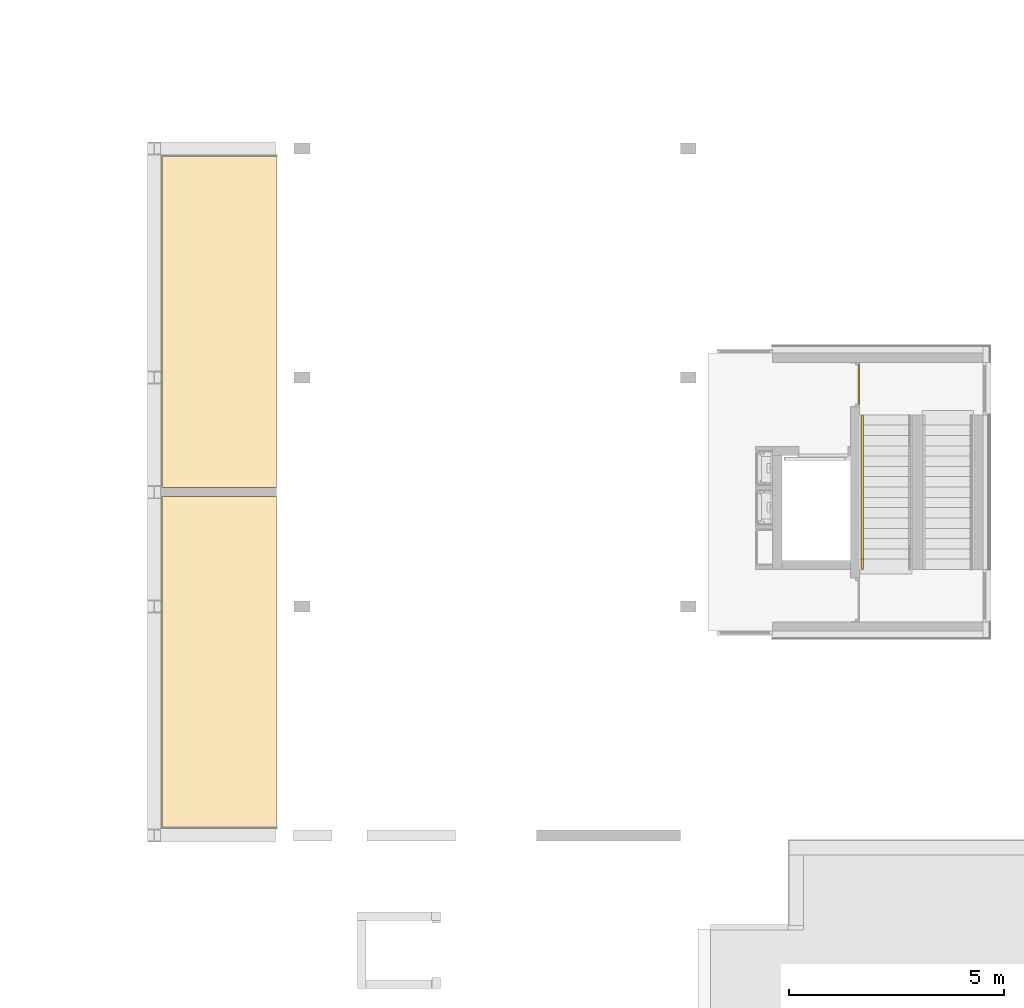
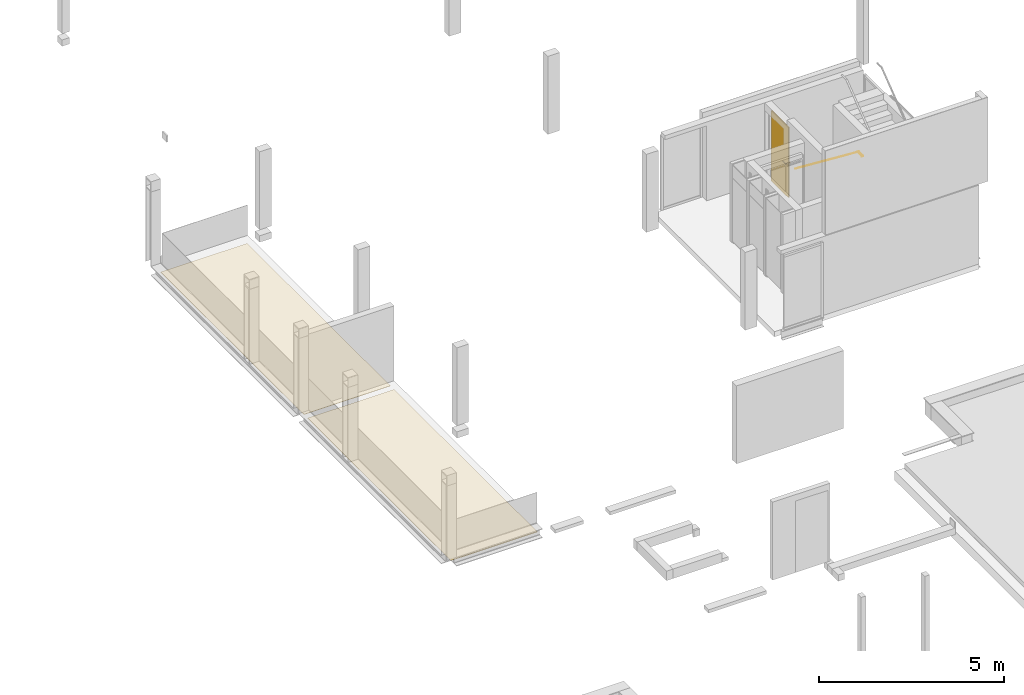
# One storey, part 12 of 22: 2 coverings, 1 door, 1 railing, 1 element without a shape of its own.
"""IFC2X3 building model written with IfcOpenShell, lengths in millimetres."""

from ifc_helpers import new_model, entity, si_unit, converted_unit, derived_unit, money_unit, direction, frame, origin_with_axes, place, context, subcontext, project, spatial, faceted_brep, source, transform, mapped, material, type_object, type_shapes, element, aggregate, save


model = new_model("IFC2X3")

# Units and contexts
model_context = context("Model", 3, precision=0.01, world=origin_with_axes(), true_north=direction((0.0, 1.0)))
body_context = subcontext(model_context, "Body", "Model", "MODEL_VIEW")
ifc_project = project(units=[si_unit("LENGTHUNIT", "METRE", prefix="MILLI"), si_unit("AREAUNIT", "SQUARE_METRE"), si_unit("VOLUMEUNIT", "CUBIC_METRE"), converted_unit("PLANEANGLEUNIT", "DEGREE", entity("IfcPlaneAngleMeasure", 0.0174532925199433), si_unit("PLANEANGLEUNIT", "RADIAN"), dimensions=[0, 0, 0, 0, 0, 0, 0]), money_unit("EUR"), converted_unit("TIMEUNIT", "Year", entity("IfcTimeMeasure", 31557600.0), si_unit("TIMEUNIT", "SECOND"), dimensions=[0, 0, 1, 0, 0, 0, 0]), si_unit("MASSUNIT", "GRAM", prefix="KILO"), si_unit("THERMODYNAMICTEMPERATUREUNIT", "DEGREE_CELSIUS"), si_unit("LUMINOUSINTENSITYUNIT", "LUMEN"), si_unit("ENERGYUNIT", "JOULE", prefix="MEGA"), derived_unit("THERMALCONDUCTANCEUNIT", [(si_unit("POWERUNIT", "WATT"), 1), (si_unit("LENGTHUNIT", "METRE"), -1), (si_unit("THERMODYNAMICTEMPERATUREUNIT", "KELVIN"), -1)]), derived_unit("SPECIFICHEATCAPACITYUNIT", [(si_unit("ENERGYUNIT", "JOULE"), 1), (si_unit("MASSUNIT", "GRAM", prefix="KILO"), -1), (si_unit("THERMODYNAMICTEMPERATUREUNIT", "KELVIN"), -1)]), derived_unit("MASSDENSITYUNIT", [(si_unit("MASSUNIT", "GRAM", prefix="KILO"), 1), (si_unit("VOLUMEUNIT", "CUBIC_METRE"), -1)])], contexts=[model_context])

# Site, building, storey
site_placement = place(None, origin_with_axes())
site = spatial("IfcSite", under=ifc_project, at=site_placement, Name="Site", CompositionType="ELEMENT")
building_placement = place(site_placement, origin_with_axes())
building = spatial("IfcBuilding", under=site, at=building_placement, Name="Naam gebouw", CompositionType="ELEMENT")
storey_placement = place(building_placement, frame((0.0, 0.0, 11150.0), z_axis=(0.0, 0.0, 1.0), x_axis=(1.0, 0.0, 0.0)))
storey = spatial("IfcBuildingStorey", under=building, at=storey_placement, Name="3e verdieping/dak N", CompositionType="ELEMENT", Elevation=11150.0)

# Door
ifc_material_1 = material(Name="<Unnamed>")
door_style = type_object("IfcDoorStyle", Name="NLRS_32_deur stomp dicht_WID:Deur", ConstructionType="NOTDEFINED", OperationType="NOTDEFINED", ParameterTakesPrecedence=False, Sizeable=False)
shared_shape_1 = source(origin_with_axes(), body_context, "Body", "Brep", [
    faceted_brep([(410.0000000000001, 65.96445239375, 1091.33974596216), (407.58819045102, 65.96445239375, 1090.34074173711), (417.5000000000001, 65.96445239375, 1078.34936490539), (410.0000000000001, 74.00000000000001, 1091.33974596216), (407.58819045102, 74.00000000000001, 1090.34074173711), (411.4704761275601, 65.96445239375, 1075.85185434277), (422.6776695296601, 65.96445239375, 1082.32233047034), (412.0710678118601, 65.96445239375, 1092.92893218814), (412.0710678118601, 74.00000000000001, 1092.92893218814), (417.5000000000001, 74.00000000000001, 1078.34936490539), (405.0, 74.00000000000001, 1090.0), (405.0, 65.96445239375, 1090.0), (411.4704761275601, 74.00000000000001, 1075.85185434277), (422.6776695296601, 74.00000000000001, 1082.32233047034), (413.66025403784, 74.00000000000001, 1095.0), (413.66025403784, 65.96445239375, 1095.0), (402.41180954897, 65.96445239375, 1090.34074173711), (402.41180954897, 74.00000000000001, 1090.34074173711), (405.0, 65.96445239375, 1075.0), (405.0, 74.00000000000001, 1075.0), (426.6506350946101, 65.96445239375, 1087.5), (426.6506350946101, 74.00000000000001, 1087.5), (414.65925826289, 65.96445239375, 1097.41180954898), (414.65925826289, 74.00000000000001, 1097.41180954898), (400.0, 74.00000000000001, 1091.33974596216), (400.0, 65.96445239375, 1091.33974596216), (398.52952387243, 65.96445239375, 1075.85185434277), (398.52952387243, 74.00000000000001, 1075.85185434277), (429.14814565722, 65.96445239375, 1093.52952387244), (429.14814565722, 74.00000000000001, 1093.52952387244), (415.0000000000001, 65.96445239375, 1100.0), (415.0000000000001, 74.00000000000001, 1100.0), (397.92893218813, 74.00000000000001, 1092.92893218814), (397.92893218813, 65.96445239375, 1092.92893218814), (392.5, 65.96445239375, 1078.34936490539), (392.5, 74.00000000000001, 1078.34936490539), (430.0000000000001, 65.96445239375, 1100.0), (430.0000000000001, 74.00000000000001, 1100.0), (414.65925826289, 65.96445239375, 1102.58819045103), (414.65925826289, 74.00000000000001, 1102.58819045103), (396.3397459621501, 74.00000000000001, 1095.0), (396.3397459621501, 65.96445239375, 1095.0), (387.32233047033, 65.96445239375, 1082.32233047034), (387.32233047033, 74.00000000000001, 1082.32233047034), (429.14814565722, 74.00000000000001, 1106.47047612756), (429.14814565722, 65.96445239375, 1106.47047612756), (413.66025403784, 65.96445239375, 1105.0), (413.66025403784, 74.00000000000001, 1105.0), (395.34074173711, 65.96445239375, 1097.41180954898), (395.34074173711, 74.00000000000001, 1097.41180954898), (383.3493649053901, 74.00000000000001, 1087.5), (383.3493649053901, 65.96445239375, 1087.5), (426.6506350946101, 74.00000000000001, 1112.5), (426.6506350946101, 65.96445239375, 1112.5), (412.0710678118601, 74.00000000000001, 1107.07106781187), (412.0710678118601, 65.96445239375, 1107.07106781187), (380.8518543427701, 74.00000000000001, 1093.52952387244), (395.0, 65.96445239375, 1100.0), (395.0, 74.00000000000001, 1100.0), (380.8518543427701, 65.96445239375, 1093.52952387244), (422.6776695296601, 74.00000000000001, 1117.67766952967), (422.6776695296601, 65.96445239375, 1117.67766952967), (410.0000000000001, 65.96445239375, 1108.66025403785), (410.0000000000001, 74.00000000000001, 1108.66025403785), (380.0000000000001, 74.00000000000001, 1100.0), (395.34074173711, 74.00000000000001, 1102.58819045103), (395.34074173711, 65.96445239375, 1102.58819045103), (380.0000000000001, 65.96445239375, 1100.0), (417.5000000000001, 65.96445239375, 1121.65063509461), (417.5000000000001, 74.00000000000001, 1121.65063509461), (407.58819045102, 65.96445239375, 1109.65925826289), (407.58819045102, 74.00000000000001, 1109.65925826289), (380.8518543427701, 74.00000000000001, 1106.47047612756), (396.3397459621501, 74.00000000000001, 1105.0), (396.3397459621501, 65.96445239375, 1105.0), (380.8518543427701, 65.96445239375, 1106.47047612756), (411.4704761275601, 65.96445239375, 1124.14814565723), (411.4704761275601, 74.00000000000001, 1124.14814565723), (405.0, 65.96445239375, 1110.0), (405.0, 74.00000000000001, 1110.0), (383.3493649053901, 74.00000000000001, 1112.5), (397.92893218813, 74.00000000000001, 1107.07106781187), (397.92893218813, 65.96445239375, 1107.07106781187), (383.3493649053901, 65.96445239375, 1112.5), (405.0, 65.96445239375, 1125.0), (405.0, 74.00000000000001, 1125.0), (402.41180954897, 65.96445239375, 1109.65925826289), (402.41180954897, 74.00000000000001, 1109.65925826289), (387.32233047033, 74.00000000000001, 1117.67766952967), (400.0, 65.96445239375, 1108.66025403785), (400.0, 74.00000000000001, 1108.66025403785), (387.32233047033, 65.96445239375, 1117.67766952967), (398.52952387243, 74.00000000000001, 1124.14814565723), (398.52952387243, 65.96445239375, 1124.14814565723), (392.5, 74.00000000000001, 1121.65063509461), (392.5, 65.96445239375, 1121.65063509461)], [[[0, 1, 2]], [[1, 0, 3, 4]], [[1, 5, 2]], [[6, 0, 2]], [[0, 7, 8, 3]], [[3, 9, 4]], [[10, 11, 1, 4]], [[5, 1, 11]], [[9, 2, 5, 12]], [[0, 6, 7]], [[9, 13, 6, 2]], [[14, 8, 7, 15]], [[13, 3, 8]], [[13, 9, 3]], [[12, 4, 9]], [[16, 11, 10, 17]], [[4, 12, 10]], [[5, 11, 18]], [[12, 5, 18, 19]], [[6, 20, 7]], [[20, 6, 13, 21]], [[21, 8, 14]], [[7, 20, 15]], [[22, 23, 14, 15]], [[13, 8, 21]], [[16, 18, 11]], [[19, 17, 10]], [[16, 17, 24, 25]], [[10, 12, 19]], [[18, 26, 27, 19]], [[28, 20, 21, 29]], [[21, 14, 29]], [[22, 15, 20]], [[30, 31, 23, 22]], [[23, 29, 14]], [[18, 16, 26]], [[17, 19, 27]], [[17, 27, 24]], [[25, 24, 32, 33]], [[16, 25, 26]], [[26, 34, 35, 27]], [[28, 22, 20]], [[36, 28, 29, 37]], [[30, 38, 39, 31]], [[23, 31, 37]], [[28, 30, 22]], [[37, 29, 23]], [[27, 35, 24]], [[32, 24, 35]], [[32, 40, 41, 33]], [[33, 34, 25]], [[34, 26, 25]], [[34, 42, 43, 35]], [[30, 28, 36]], [[44, 45, 36, 37]], [[38, 30, 36]], [[38, 46, 47, 39]], [[44, 31, 39]], [[31, 44, 37]], [[32, 35, 43]], [[43, 40, 32]], [[48, 41, 40, 49]], [[41, 42, 33]], [[34, 33, 42]], [[50, 43, 42, 51]], [[52, 53, 45, 44]], [[36, 45, 38]], [[38, 45, 46]], [[54, 47, 46, 55]], [[39, 47, 52]], [[44, 39, 52]], [[43, 50, 40]], [[48, 51, 41]], [[56, 49, 40]], [[57, 48, 49, 58]], [[51, 42, 41]], [[50, 51, 59, 56]], [[52, 60, 61, 53]], [[53, 46, 45]], [[54, 52, 47]], [[53, 55, 46]], [[62, 63, 54, 55]], [[56, 40, 50]], [[59, 51, 48]], [[64, 49, 56]], [[59, 48, 57]], [[64, 58, 49]], [[57, 58, 65, 66]], [[56, 59, 67, 64]], [[60, 52, 54]], [[68, 61, 60, 69]], [[61, 55, 53]], [[70, 71, 63, 62]], [[63, 60, 54]], [[61, 62, 55]], [[59, 57, 67]], [[72, 58, 64]], [[72, 65, 58]], [[66, 65, 73, 74]], [[67, 57, 66]], [[67, 75, 72, 64]], [[61, 68, 62]], [[60, 63, 69]], [[76, 68, 69, 77]], [[70, 78, 79, 71]], [[63, 71, 69]], [[62, 68, 70]], [[72, 80, 65]], [[65, 80, 73]], [[73, 81, 82, 74]], [[75, 66, 74]], [[67, 66, 75]], [[75, 83, 80, 72]], [[76, 70, 68]], [[71, 77, 69]], [[84, 76, 77, 85]], [[70, 76, 78]], [[79, 78, 86, 87]], [[77, 71, 79]], [[80, 88, 73]], [[73, 88, 81]], [[89, 82, 81, 90]], [[91, 74, 82]], [[75, 74, 83]], [[83, 91, 88, 80]], [[78, 76, 84]], [[77, 79, 85]], [[92, 93, 84, 85]], [[84, 86, 78]], [[86, 89, 90, 87]], [[87, 85, 79]], [[94, 81, 88]], [[82, 89, 95]], [[81, 94, 90]], [[91, 83, 74]], [[82, 95, 91]], [[94, 88, 91, 95]], [[94, 95, 93, 92]], [[86, 84, 93]], [[85, 87, 92]], [[86, 93, 89]], [[87, 90, 92]], [[93, 95, 89]], [[94, 92, 90]]]),
    faceted_brep([(410.0000000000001, 74.00000000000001, 1091.33974596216), (407.58819045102, 74.00000000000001, 1090.34074173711), (405.0, 74.00000000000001, 1090.0), (402.41180954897, 74.00000000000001, 1090.34074173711), (400.0, 74.00000000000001, 1091.33974596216), (397.92893218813, 74.00000000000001, 1092.92893218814), (396.3397459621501, 74.00000000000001, 1095.0), (395.34074173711, 74.00000000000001, 1097.41180954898), (395.0, 74.00000000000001, 1100.0), (395.34074173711, 74.00000000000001, 1102.58819045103), (396.3397459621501, 74.00000000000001, 1105.0), (397.92893218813, 74.00000000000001, 1107.07106781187), (400.0, 74.00000000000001, 1108.66025403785), (402.41180954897, 74.00000000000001, 1109.65925826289), (405.0, 74.00000000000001, 1110.0), (407.58819045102, 74.00000000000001, 1109.65925826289), (410.0000000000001, 74.00000000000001, 1108.66025403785), (412.0710678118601, 74.00000000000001, 1107.07106781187), (413.66025403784, 74.00000000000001, 1105.0), (414.65925826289, 74.00000000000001, 1102.58819045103), (415.0000000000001, 74.00000000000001, 1100.0), (414.65925826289, 74.00000000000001, 1097.41180954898), (413.66025403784, 74.00000000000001, 1095.0), (412.0710678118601, 74.00000000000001, 1092.92893218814), (405.0, 24.0, 1090.0), (402.41180954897, 26.58819045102, 1090.34074173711), (400.0, 29.0, 1091.33974596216), (397.92893218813, 31.07106781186, 1092.92893218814), (396.3397459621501, 32.66025403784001, 1095.0), (395.34074173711, 33.65925826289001, 1097.41180954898), (395.0, 34.0, 1100.0), (395.34074173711, 33.65925826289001, 1102.58819045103), (396.3397459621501, 32.66025403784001, 1105.0), (397.92893218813, 31.07106781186, 1107.07106781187), (400.0, 29.0, 1108.66025403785), (402.41180954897, 26.58819045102, 1109.65925826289), (405.0, 24.0, 1110.0), (407.58819045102, 21.41180954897, 1109.65925826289), (412.0710678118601, 16.92893218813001, 1107.07106781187), (414.65925826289, 14.34074173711, 1102.58819045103), (415.0000000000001, 14.0, 1100.0), (414.65925826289, 14.34074173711, 1097.41180954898), (412.0710678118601, 16.92893218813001, 1092.92893218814), (407.58819045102, 21.41180954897, 1090.34074173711), (255.0, 32.66025403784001, 1095.0), (255.0, 33.65925826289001, 1097.41180954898), (255.0, 34.0, 1100.0), (255.0, 33.65925826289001, 1102.58819045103), (255.0, 32.66025403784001, 1105.0), (410.0000000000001, 19.0, 1108.66025403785), (413.66025403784, 15.33974596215, 1105.0), (255.0, 14.34074173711, 1102.58819045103), (255.0, 14.0, 1100.0), (255.0, 14.34074173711, 1097.41180954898), (413.66025403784, 15.33974596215, 1095.0), (410.0000000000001, 19.0, 1091.33974596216), (255.0, 26.58819045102, 1090.34074173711), (255.0, 24.0, 1090.0), (255.0, 29.0, 1091.33974596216), (255.0, 31.07106781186, 1092.92893218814), (255.0, 21.41180954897, 1090.34074173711), (255.0, 19.0, 1091.33974596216), (255.0, 16.92893218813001, 1092.92893218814), (255.0, 15.33974596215, 1095.0), (255.0, 15.33974596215, 1105.0), (255.0, 16.92893218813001, 1107.07106781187), (255.0, 19.0, 1108.66025403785), (255.0, 21.41180954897, 1109.65925826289), (255.0, 24.0, 1110.0), (255.0, 26.58819045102, 1109.65925826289), (255.0, 29.0, 1108.66025403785), (255.0, 31.07106781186, 1107.07106781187)], [[[0, 1, 2, 3, 4, 5, 6, 7, 8, 9, 10, 11, 12, 13, 14, 15, 16, 17, 18, 19, 20, 21, 22, 23]], [[24, 1, 0]], [[25, 2, 1]], [[3, 2, 26]], [[27, 4, 3]], [[5, 4, 28]], [[5, 28, 6]], [[28, 29, 7, 6]], [[29, 30, 8, 7]], [[30, 31, 9, 8]], [[31, 32, 10, 9]], [[10, 32, 11]], [[12, 11, 32]], [[33, 13, 12]], [[13, 34, 14]], [[14, 35, 15]], [[16, 15, 36]], [[16, 36, 17]], [[17, 37, 18]], [[19, 18, 38]], [[20, 19, 39, 40]], [[20, 40, 41, 21]], [[42, 22, 21]], [[23, 22, 43]], [[0, 23, 24]], [[1, 24, 25]], [[25, 26, 2]], [[26, 27, 3]], [[27, 28, 4]], [[44, 45, 29, 28]], [[45, 46, 30, 29]], [[46, 47, 31, 30]], [[47, 48, 32, 31]], [[32, 33, 12]], [[33, 34, 13]], [[14, 34, 35]], [[35, 36, 15]], [[37, 17, 36]], [[49, 18, 37]], [[38, 18, 49]], [[38, 50, 19]], [[19, 50, 39]], [[51, 52, 40, 39]], [[52, 53, 41, 40]], [[54, 21, 41]], [[22, 42, 55]], [[54, 42, 21]], [[22, 55, 43]], [[23, 43, 24]], [[56, 25, 24, 57]], [[56, 58, 26, 25]], [[58, 59, 27, 26]], [[59, 44, 28, 27]], [[57, 60, 61, 62, 63, 53, 52, 51, 64, 65, 66, 67, 68, 69, 70, 71, 48, 47, 46, 45, 44, 59, 58, 56]], [[48, 71, 33, 32]], [[71, 70, 34, 33]], [[70, 69, 35, 34]], [[68, 36, 35, 69]], [[37, 36, 68, 67]], [[67, 66, 49, 37]], [[66, 65, 38, 49]], [[65, 64, 50, 38]], [[64, 51, 39, 50]], [[53, 63, 54, 41]], [[62, 61, 55, 42]], [[63, 62, 42, 54]], [[61, 60, 43, 55]], [[60, 57, 24, 43]]]),
    faceted_brep([(417.4999999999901, 122.03554760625, 1078.34936490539), (407.58819045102, 122.03554760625, 1090.34074173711), (410.0000000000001, 122.03554760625, 1091.33974596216), (411.4704761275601, 122.03554760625, 1075.85185434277), (410.0000000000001, 114.0, 1091.33974596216), (407.58819045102, 114.0, 1090.34074173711), (422.6776695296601, 122.03554760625, 1082.32233047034), (411.4704761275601, 114.0, 1075.85185434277), (417.4999999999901, 114.0, 1078.34936490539), (405.0, 122.03554760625, 1090.0), (412.0710678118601, 114.0, 1092.92893218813), (412.0710678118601, 122.03554760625, 1092.92893218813), (405.0, 114.0, 1090.0), (422.6776695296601, 114.0, 1082.32233047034), (405.0, 114.0, 1075.0), (405.0, 122.03554760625, 1075.0), (413.66025403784, 122.03554760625, 1095.0), (413.66025403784, 114.0, 1095.0), (402.41180954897, 114.0, 1090.34074173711), (402.41180954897, 122.03554760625, 1090.34074173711), (426.6506350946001, 122.03554760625, 1087.5), (426.6506350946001, 114.0, 1087.5), (398.52952387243, 114.0, 1075.85185434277), (398.52952387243, 122.03554760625, 1075.85185434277), (414.65925826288, 114.0, 1097.41180954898), (414.65925826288, 122.03554760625, 1097.41180954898), (400.0, 122.03554760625, 1091.33974596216), (400.0, 114.0, 1091.33974596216), (429.14814565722, 114.0, 1093.52952387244), (429.14814565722, 122.03554760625, 1093.52952387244), (392.4999999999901, 114.0, 1078.34936490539), (392.4999999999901, 122.03554760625, 1078.34936490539), (415.0000000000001, 114.0, 1100.0), (415.0000000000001, 122.03554760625, 1100.0), (397.92893218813, 122.03554760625, 1092.92893218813), (397.92893218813, 114.0, 1092.92893218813), (430.0000000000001, 122.03554760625, 1100.0), (430.0000000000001, 114.0, 1100.0), (387.32233047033, 114.0, 1082.32233047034), (387.32233047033, 122.03554760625, 1082.32233047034), (414.65925826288, 114.0, 1102.58819045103), (414.65925826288, 122.03554760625, 1102.58819045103), (396.3397459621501, 122.03554760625, 1095.0), (396.3397459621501, 114.0, 1095.0), (429.14814565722, 122.03554760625, 1106.47047612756), (429.14814565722, 114.0, 1106.47047612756), (383.3493649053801, 114.0, 1087.5), (383.3493649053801, 122.03554760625, 1087.5), (413.66025403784, 114.0, 1105.0), (413.66025403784, 122.03554760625, 1105.0), (395.3407417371, 122.03554760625, 1097.41180954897), (395.3407417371, 114.0, 1097.41180954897), (426.6506350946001, 122.03554760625, 1112.5), (426.6506350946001, 114.0, 1112.5), (380.8518543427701, 114.0, 1093.52952387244), (380.8518543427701, 122.03554760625, 1093.52952387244), (412.0710678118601, 122.03554760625, 1107.07106781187), (412.0710678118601, 114.0, 1107.07106781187), (395.0, 122.03554760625, 1100.0), (395.0, 114.0, 1100.0), (422.6776695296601, 122.03554760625, 1117.67766952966), (422.6776695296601, 114.0, 1117.67766952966), (380.0000000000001, 114.0, 1100.0), (380.0000000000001, 122.03554760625, 1100.0), (410.0000000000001, 114.0, 1108.66025403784), (410.0000000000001, 122.03554760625, 1108.66025403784), (395.3407417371, 122.03554760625, 1102.58819045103), (395.3407417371, 114.0, 1102.58819045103), (417.4999999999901, 114.0, 1121.65063509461), (417.4999999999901, 122.03554760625, 1121.65063509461), (380.8518543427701, 114.0, 1106.47047612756), (380.8518543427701, 122.03554760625, 1106.47047612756), (407.58819045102, 114.0, 1109.65925826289), (407.58819045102, 122.03554760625, 1109.65925826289), (396.3397459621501, 122.03554760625, 1105.0), (396.3397459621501, 114.0, 1105.0), (411.4704761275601, 114.0, 1124.14814565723), (411.4704761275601, 122.03554760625, 1124.14814565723), (383.3493649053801, 114.0, 1112.5), (383.3493649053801, 122.03554760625, 1112.5), (405.0, 114.0, 1110.0), (405.0, 122.03554760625, 1110.0), (397.92893218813, 122.03554760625, 1107.07106781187), (397.92893218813, 114.0, 1107.07106781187), (405.0, 122.03554760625, 1125.0), (405.0, 114.0, 1125.0), (387.32233047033, 114.0, 1117.67766952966), (387.32233047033, 122.03554760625, 1117.67766952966), (402.41180954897, 114.0, 1109.65925826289), (402.41180954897, 122.03554760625, 1109.65925826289), (400.0, 122.03554760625, 1108.66025403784), (400.0, 114.0, 1108.66025403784), (398.52952387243, 122.03554760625, 1124.14814565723), (398.52952387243, 114.0, 1124.14814565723), (392.4999999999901, 114.0, 1121.65063509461), (392.4999999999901, 122.03554760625, 1121.65063509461)], [[[0, 1, 2]], [[0, 3, 1]], [[4, 2, 1, 5]], [[0, 2, 6]], [[7, 3, 0, 8]], [[9, 1, 3]], [[10, 11, 2, 4]], [[5, 1, 9, 12]], [[5, 8, 4]], [[11, 6, 2]], [[6, 13, 8, 0]], [[14, 15, 3, 7]], [[8, 5, 7]], [[15, 9, 3]], [[16, 11, 10, 17]], [[10, 4, 13]], [[18, 12, 9, 19]], [[12, 7, 5]], [[4, 8, 13]], [[11, 20, 6]], [[21, 13, 6, 20]], [[22, 23, 15, 14]], [[14, 7, 12]], [[9, 15, 19]], [[16, 20, 11]], [[17, 10, 21]], [[16, 17, 24, 25]], [[21, 10, 13]], [[12, 18, 14]], [[26, 27, 18, 19]], [[28, 21, 20, 29]], [[22, 30, 31, 23]], [[23, 19, 15]], [[22, 14, 18]], [[20, 16, 25]], [[28, 17, 21]], [[17, 28, 24]], [[25, 24, 32, 33]], [[34, 35, 27, 26]], [[27, 22, 18]], [[23, 26, 19]], [[20, 25, 29]], [[28, 29, 36, 37]], [[27, 30, 22]], [[30, 38, 39, 31]], [[26, 23, 31]], [[24, 28, 37]], [[37, 32, 24]], [[40, 41, 33, 32]], [[25, 33, 29]], [[34, 42, 43, 35]], [[30, 27, 35]], [[26, 31, 34]], [[36, 29, 33]], [[37, 36, 44, 45]], [[38, 30, 35]], [[39, 38, 46, 47]], [[39, 34, 31]], [[37, 45, 32]], [[48, 49, 41, 40]], [[36, 33, 41]], [[40, 32, 45]], [[34, 39, 42]], [[43, 42, 50, 51]], [[35, 43, 38]], [[41, 44, 36]], [[45, 44, 52, 53]], [[43, 46, 38]], [[54, 55, 47, 46]], [[42, 39, 47]], [[56, 49, 48, 57]], [[49, 44, 41]], [[53, 48, 40]], [[53, 40, 45]], [[42, 47, 50]], [[51, 50, 58, 59]], [[43, 51, 54]], [[44, 49, 52]], [[60, 61, 53, 52]], [[46, 43, 54]], [[62, 63, 55, 54]], [[50, 47, 55]], [[49, 56, 52]], [[48, 53, 57]], [[56, 57, 64, 65]], [[58, 50, 55]], [[66, 67, 59, 58]], [[51, 59, 62]], [[54, 51, 62]], [[68, 61, 60, 69]], [[57, 53, 61]], [[52, 56, 60]], [[70, 71, 63, 62]], [[63, 58, 55]], [[57, 61, 64]], [[65, 64, 72, 73]], [[56, 65, 60]], [[74, 75, 67, 66]], [[59, 67, 70]], [[66, 58, 63]], [[62, 59, 70]], [[68, 64, 61]], [[65, 69, 60]], [[76, 68, 69, 77]], [[70, 78, 79, 71]], [[71, 66, 63]], [[68, 72, 64]], [[72, 80, 81, 73]], [[73, 69, 65]], [[74, 82, 83, 75]], [[75, 78, 67]], [[74, 66, 71]], [[67, 78, 70]], [[68, 76, 72]], [[69, 73, 77]], [[76, 77, 84, 85]], [[78, 86, 87, 79]], [[79, 74, 71]], [[80, 72, 76]], [[88, 89, 81, 80]], [[81, 77, 73]], [[82, 74, 87]], [[83, 82, 90, 91]], [[83, 86, 75]], [[75, 86, 78]], [[84, 77, 81]], [[85, 84, 92, 93]], [[85, 80, 76]], [[87, 86, 94, 95]], [[74, 79, 87]], [[91, 90, 89, 88]], [[81, 89, 84]], [[80, 85, 88]], [[87, 95, 82]], [[95, 90, 82]], [[91, 94, 83]], [[86, 83, 94]], [[92, 84, 89]], [[93, 92, 95, 94]], [[93, 88, 85]], [[90, 92, 89]], [[93, 91, 88]], [[90, 95, 92]], [[91, 93, 94]]]),
    faceted_brep([(405.0, 114.0, 1090.0), (407.58819045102, 114.0, 1090.34074173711), (410.0000000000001, 114.0, 1091.33974596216), (412.0710678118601, 114.0, 1092.92893218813), (413.66025403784, 114.0, 1095.0), (414.65925826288, 114.0, 1097.41180954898), (415.0000000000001, 114.0, 1100.0), (414.65925826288, 114.0, 1102.58819045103), (413.66025403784, 114.0, 1105.0), (412.0710678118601, 114.0, 1107.07106781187), (410.0000000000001, 114.0, 1108.66025403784), (407.58819045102, 114.0, 1109.65925826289), (405.0, 114.0, 1110.0), (402.41180954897, 114.0, 1109.65925826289), (400.0, 114.0, 1108.66025403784), (397.92893218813, 114.0, 1107.07106781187), (396.3397459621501, 114.0, 1105.0), (395.3407417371, 114.0, 1102.58819045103), (395.0, 114.0, 1100.0), (395.3407417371, 114.0, 1097.41180954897), (396.3397459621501, 114.0, 1095.0), (397.92893218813, 114.0, 1092.92893218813), (400.0, 114.0, 1091.33974596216), (402.41180954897, 114.0, 1090.34074173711), (402.41180954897, 161.41180954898, 1090.34074173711), (405.0, 164.0, 1090.0), (407.58819045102, 166.58819045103, 1090.34074173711), (412.0710678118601, 171.07106781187, 1092.92893218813), (414.65925826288, 173.65925826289, 1097.41180954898), (415.0000000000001, 174.0, 1100.0), (414.65925826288, 173.65925826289, 1102.58819045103), (412.0710678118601, 171.07106781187, 1107.07106781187), (407.58819045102, 166.58819045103, 1109.65925826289), (405.0, 164.0, 1110.0), (402.41180954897, 161.41180954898, 1109.65925826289), (400.0, 159.0, 1108.66025403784), (397.92893218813, 156.92893218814, 1107.07106781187), (396.3397459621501, 155.33974596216, 1105.0), (395.3407417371, 154.3407417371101, 1102.58819045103), (395.0, 154.0, 1100.0), (395.3407417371, 154.3407417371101, 1097.41180954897), (396.3397459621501, 155.33974596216, 1095.0), (397.92893218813, 156.92893218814, 1092.92893218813), (400.0, 159.0, 1091.33974596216), (410.0000000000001, 169.0, 1091.33974596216), (413.66025403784, 172.66025403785, 1095.0), (255.0, 173.65925826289, 1097.41180954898), (255.0, 174.0, 1100.0), (255.0, 173.65925826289, 1102.58819045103), (413.66025403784, 172.66025403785, 1105.0), (410.0000000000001, 169.0, 1108.66025403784), (255.0, 155.33974596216, 1105.0), (255.0, 154.3407417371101, 1102.58819045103), (255.0, 154.0, 1100.0), (255.0, 154.3407417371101, 1097.41180954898), (255.0, 155.33974596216, 1095.0), (255.0, 159.0, 1091.33974596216), (255.0, 161.41180954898, 1090.34074173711), (255.0, 164.0, 1090.0), (255.0, 166.58819045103, 1090.34074173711), (255.0, 169.0, 1091.33974596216), (255.0, 171.07106781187, 1092.92893218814), (255.0, 172.66025403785, 1095.0), (255.0, 156.92893218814, 1092.92893218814), (255.0, 156.92893218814, 1107.07106781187), (255.0, 159.0, 1108.66025403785), (255.0, 161.41180954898, 1109.65925826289), (255.0, 164.0, 1110.0), (255.0, 166.58819045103, 1109.65925826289), (255.0, 169.0, 1108.66025403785), (255.0, 171.07106781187, 1107.07106781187), (255.0, 172.66025403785, 1105.0)], [[[0, 1, 2, 3, 4, 5, 6, 7, 8, 9, 10, 11, 12, 13, 14, 15, 16, 17, 18, 19, 20, 21, 22, 23]], [[1, 0, 24]], [[2, 1, 25]], [[25, 3, 2]], [[26, 4, 3]], [[5, 4, 27]], [[28, 29, 6, 5]], [[29, 30, 7, 6]], [[31, 8, 7]], [[8, 32, 9]], [[9, 33, 10]], [[33, 11, 10]], [[11, 34, 12]], [[12, 35, 13]], [[14, 13, 36]], [[37, 15, 14]], [[15, 37, 16]], [[16, 37, 38, 17]], [[18, 17, 38, 39]], [[19, 18, 39, 40]], [[20, 19, 40, 41]], [[20, 41, 21]], [[41, 22, 21]], [[23, 22, 42]], [[43, 0, 23]], [[0, 43, 24]], [[24, 25, 1]], [[25, 26, 3]], [[26, 44, 4]], [[44, 27, 4]], [[5, 27, 45]], [[28, 46, 47, 29]], [[28, 5, 45]], [[30, 29, 47, 48]], [[30, 49, 7]], [[50, 8, 31]], [[7, 49, 31]], [[32, 8, 50]], [[33, 9, 32]], [[11, 33, 34]], [[34, 35, 12]], [[13, 35, 36]], [[14, 36, 37]], [[38, 37, 51, 52]], [[39, 38, 52, 53]], [[39, 53, 54, 40]], [[40, 54, 55, 41]], [[22, 41, 42]], [[23, 42, 43]], [[43, 56, 57, 24]], [[58, 25, 24, 57]], [[26, 25, 58, 59]], [[26, 59, 60, 44]], [[44, 60, 61, 27]], [[27, 61, 62, 45]], [[45, 62, 46, 28]], [[60, 59, 58, 57, 56, 63, 55, 54, 53, 52, 51, 64, 65, 66, 67, 68, 69, 70, 71, 48, 47, 46, 62, 61]], [[49, 30, 48, 71]], [[50, 31, 70, 69]], [[31, 49, 71, 70]], [[32, 50, 69, 68]], [[68, 67, 33, 32]], [[34, 33, 67, 66]], [[35, 34, 66, 65]], [[36, 35, 65, 64]], [[37, 36, 64, 51]], [[41, 55, 63, 42]], [[42, 63, 56, 43]]]),
    faceted_brep([(465.0, 114.0, 0.0), (465.0, 74.00000000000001, 0.0), (-465.0, 74.00000000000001, 0.0), (-465.0, 114.0, 0.0), (465.0, 114.0, 2315.0), (465.0, 74.00000000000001, 2315.0), (-465.0, 74.00000000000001, 2315.0), (-465.0, 114.0, 2315.0)], [[[0, 1, 2, 3]], [[4, 5, 1, 0]], [[5, 6, 2, 1]], [[6, 7, 3, 2]], [[7, 4, 0, 3]], [[4, 7, 6, 5]]]),
])
type_shapes(door_style, [shared_shape_1])
door_placement = place(storey_placement, frame((33598.00000005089, 38448.91242624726, 310.0000000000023), z_axis=(0.0, 0.0, 1.0), x_axis=(0.0, -1.0, 0.0)))
element("IfcDoor", 1, at=door_placement, inside=storey, type_object=door_style, material=ifc_material_1, Name="NLRS_32_deur stomp dicht_WID:Deur", ObjectType="DOOR", context=body_context, shape_type="MappedRepresentation", body=[
    mapped(shared_shape_1, transform((0.0, 0.0, 0.0))),
])

# Coverings
ifc_material_2 = material(Name="IFC Building Material")
covering_type = type_object("IfcCoveringType", Name="Compound Ceiling:47_3B_plafond wvm WIT", PredefinedType="CEILING")
shared_shape_2 = source(origin_with_axes(), body_context, "Body", "Brep", [
    faceted_brep([(13425.00000128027, 8510.00001265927, -300.0000000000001), (21170.0000012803, 8510.00001265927, -300.0000000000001), (21170.0000012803, 8510.00001265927, -288.0000000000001), (13425.00000128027, 8510.00001265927, -288.0000000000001), (13425.00000128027, 11209.00001265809, -300.0000000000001), (21170.0000012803, 11209.00001265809, -300.0000000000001), (21170.0000012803, 11209.00001265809, -288.0000000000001), (13425.00000128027, 11209.00001265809, -288.0000000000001)], [[[0, 1, 2, 3]], [[0, 4, 5, 1]], [[1, 5, 6, 2]], [[3, 2, 6, 7]], [[4, 0, 3, 7]], [[5, 4, 7, 6]]]),
])
covering_1_placement = place(storey_placement, frame((28651.00001269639, 22625.91242505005, 310.0000000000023), z_axis=(0.0, 0.0, 1.0), x_axis=(0.0, 1.0, 0.0)))
element("IfcCovering", 2, at=covering_1_placement, inside=storey, type_object=covering_type, material=ifc_material_2, Name="Compound Ceiling:47_3B_plafond wvm WIT", PredefinedType="CEILING", context=body_context, shape_type="MappedRepresentation", body=[
    mapped(shared_shape_2, transform((0.0, 0.0, 0.0))),
])
shared_shape_3 = source(origin_with_axes(), body_context, "Body", "Brep", [
    faceted_brep([(5480.000001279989, 11209.00001265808, -300.0000000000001), (5480.000001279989, 8510.000012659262, -300.0000000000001), (5480.000001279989, 8510.000012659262, -288.0000000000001), (5480.000001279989, 11209.00001265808, -288.0000000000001), (13225.00000128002, 11209.00001265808, -300.0000000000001), (13225.00000128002, 8510.000012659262, -300.0000000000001), (13225.00000128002, 8510.000012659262, -288.0000000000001), (13225.00000128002, 11209.00001265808, -288.0000000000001)], [[[0, 1, 2, 3]], [[0, 4, 5, 1]], [[1, 5, 6, 2]], [[3, 2, 6, 7]], [[4, 0, 3, 7]], [[5, 4, 7, 6]]]),
])
type_shapes(covering_type, [shared_shape_2, shared_shape_3])
covering_2_placement = place(storey_placement, frame((28651.00001269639, 22625.91242505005, 310.0000000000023), z_axis=(0.0, 0.0, 1.0), x_axis=(0.0, 1.0, 0.0)))
element("IfcCovering", 3, at=covering_2_placement, inside=storey, type_object=covering_type, material=ifc_material_2, Name="Compound Ceiling:47_3B_plafond wvm WIT", PredefinedType="CEILING", context=body_context, shape_type="MappedRepresentation", body=[
    mapped(shared_shape_3, transform((0.0, 0.0, 0.0))),
])

# Stair, railing
stair_placement = place(storey_placement, frame((0.0, 0.0, -11150.0), z_axis=(0.0, 0.0, 1.0), x_axis=(1.0, 0.0, 0.0)))
stair = element("IfcStair", 4, at=stair_placement, inside=storey, Name="Precast Stair:Stair", ObjectType="Precast Stair:24_trap - prefab", ShapeType="NOTDEFINED")
ifc_material_3 = material(Name="baluster_staal")
railing_type = type_object("IfcRailingType", Name="Railing:44_3B_leuning - staal 50x10mm", PredefinedType="NOTDEFINED")
shared_shape_4 = source(origin_with_axes(), body_context, "Body", "Brep", [
    faceted_brep([(3600.0, 50.0, 12.61762558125), (3600.0, 0.0, 12.61762558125), (3600.0, 0.0, 0.0), (3600.0, 50.0, 0.0), (240.0, 50.0, 2597.95095891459), (240.0, 0.0, 2597.95095891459), (236.5980317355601, 0.0, 2587.95095891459), (236.5980317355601, 50.0, 2587.95095891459), (0.0, 50.0, 2597.95095891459), (0.0, 0.0, 2597.95095891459), (0.0, 0.0, 2587.95095891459), (0.0, 50.0, 2587.95095891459)], [[[0, 1, 2, 3]], [[1, 0, 4, 5]], [[2, 1, 5, 6]], [[3, 2, 6, 7]], [[0, 3, 7, 4]], [[5, 4, 8, 9]], [[6, 5, 9, 10]], [[7, 6, 10, 11]], [[4, 7, 11, 8]], [[8, 11, 10, 9]]]),
])
type_shapes(railing_type, [shared_shape_4])
railing_placement = place(stair_placement, frame((33798.00000006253, 34145.91242629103, 12532.04904108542), z_axis=(0.0, 0.0, 1.0), x_axis=(0.0, 1.0, 0.0)))
railing = element("IfcRailing", 5, at=railing_placement, type_object=railing_type, material=ifc_material_3, Name="Railing:44_3B_leuning - staal 50x10mm", PredefinedType="NOTDEFINED", context=body_context, shape_type="MappedRepresentation", body=[
    mapped(shared_shape_4, transform((0.0, 0.0, 0.0))),
])
aggregate(stair, [railing])

save(model, "model.ifc")
